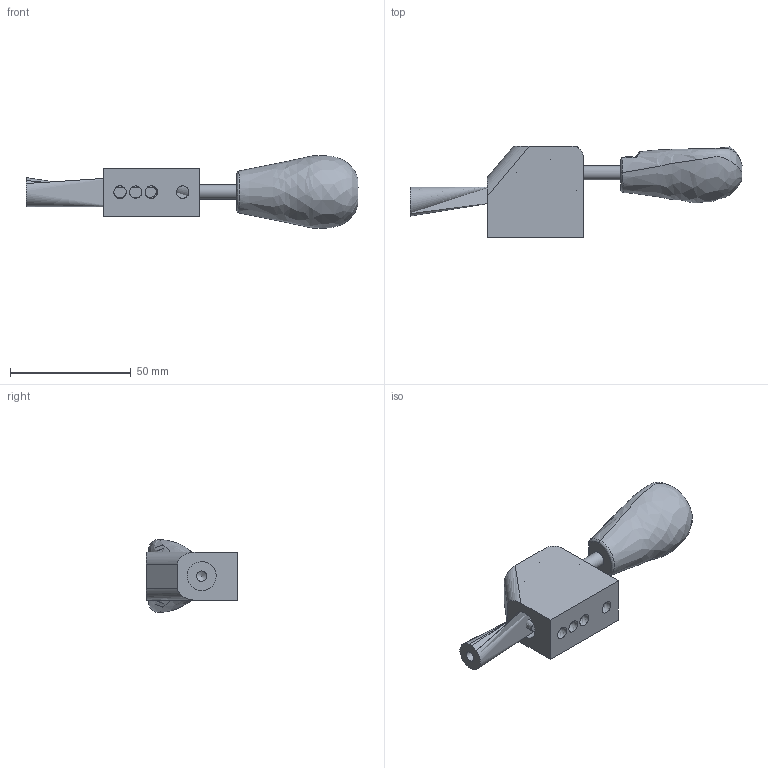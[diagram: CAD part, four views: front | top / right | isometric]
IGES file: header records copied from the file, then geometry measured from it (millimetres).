
Global section: file name: YSP-22ST-CLAMP; native system: Autodesk Inventor 2019; preprocessor: unknown; author: 桶田 勝弘,,11,0, ; organization: 20171006.074515; date: 20240514.161035; units: millimetre
Bounding box: 137.75 x 38 x 30.17 mm (x, y, z)
Volume: 47734 mm3; surface area: 19201.7 mm2
Topology: 5 solids, 5 shells, 191 faces, 532 edges, 356 vertices
Faces by surface type: bspline 191
